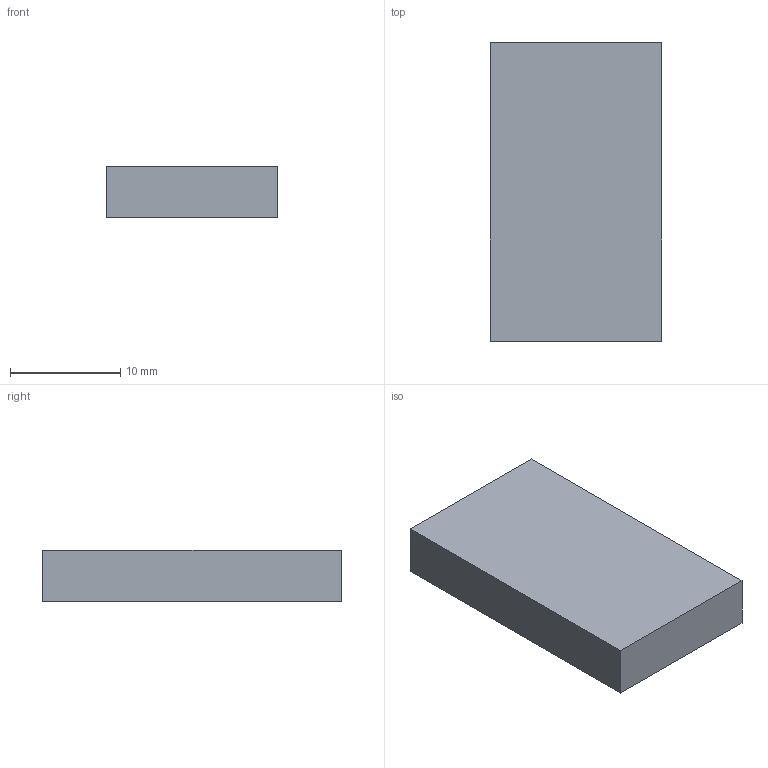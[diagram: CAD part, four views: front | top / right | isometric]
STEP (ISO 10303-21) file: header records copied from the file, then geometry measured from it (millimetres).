
FILE_DESCRIPTION(('Open CASCADE Model'),'2;1');
FILE_NAME('Open CASCADE Shape Model','2026-10-29T14:13:48',('Author'),( 'Open CASCADE'),'Open CASCADE STEP processor 7.9','Open CASCADE 7.9' ,'Unknown');
FILE_SCHEMA(('AUTOMOTIVE_DESIGN { 1 0 10303 214 1 1 1 1 }'));
Length unit declared in the file: millimetre
Products named in the file (1): Open CASCADE STEP translator 7.9 6
Bounding box: 15.5 x 27 x 4.7 mm (x, y, z)
Volume: 1966.9 mm3; surface area: 1236.5 mm2
Topology: 1 solids, 1 shells, 6 faces, 12 edges, 8 vertices
Faces by surface type: plane 6
Entity records: 322 total; most frequent: CARTESIAN_POINT 51, DIRECTION 50, LINE 36, VECTOR 36, ORIENTED_EDGE 24, PCURVE 24, DEFINITIONAL_REPRESENTATION 24, EDGE_CURVE 12
